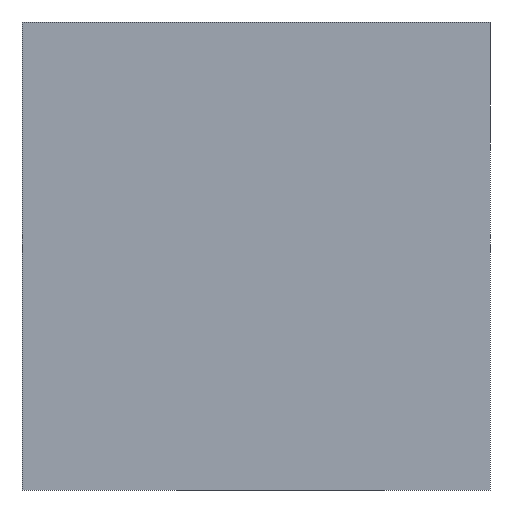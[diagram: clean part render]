
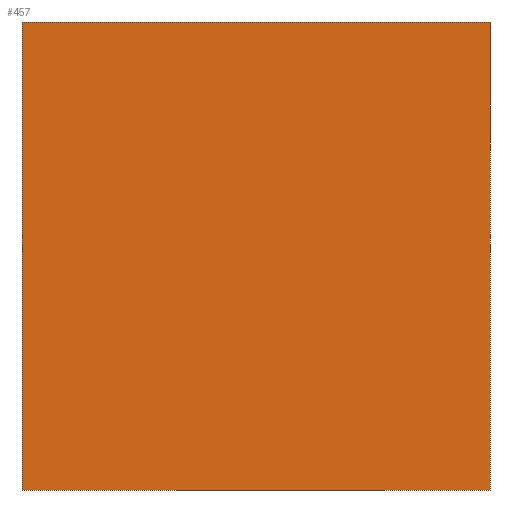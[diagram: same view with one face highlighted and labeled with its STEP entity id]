
A CAD part, front view. The second image highlights one B-rep face of the part: STEP entity #457.
In plain terms, the highlighted planar face has unit normal (0, -1, 0).
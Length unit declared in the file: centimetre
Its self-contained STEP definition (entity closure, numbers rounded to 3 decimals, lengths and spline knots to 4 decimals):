
#41 = EDGE_LOOP ( 'NONE', ( #566, #92, #138, #528 ) ) ;
#70 = VECTOR ( 'NONE', #461, 100. ) ;
#85 = LINE ( 'NONE', #244, #119 ) ;
#89 = DIRECTION ( 'NONE',  ( 0., 0., -1. ) ) ;
#92 = ORIENTED_EDGE ( 'NONE', *, *, #101, .F. ) ;
#101 = EDGE_CURVE ( 'NONE', #537, #214, #247, .T. ) ;
#108 = CARTESIAN_POINT ( 'NONE',  ( 0., 0., 1000. ) ) ;
#111 = VECTOR ( 'NONE', #449, 100. ) ;
#119 = VECTOR ( 'NONE', #160, 100. ) ;
#138 = ORIENTED_EDGE ( 'NONE', *, *, #169, .F. ) ;
#160 = DIRECTION ( 'NONE',  ( 1., 0., 0. ) ) ;
#169 = EDGE_CURVE ( 'NONE', #209, #537, #85, .T. ) ;
#180 = LINE ( 'NONE', #536, #111 ) ;
#187 = CARTESIAN_POINT ( 'NONE',  ( 1000., 0., 1000. ) ) ;
#190 = PLANE ( 'NONE',  #499 ) ;
#209 = VERTEX_POINT ( 'NONE', #346 ) ;
#214 = VERTEX_POINT ( 'NONE', #561 ) ;
#229 = CARTESIAN_POINT ( 'NONE',  ( 0., 0., 0. ) ) ;
#244 = CARTESIAN_POINT ( 'NONE',  ( 0., 0., 1000. ) ) ;
#246 = EDGE_CURVE ( 'NONE', #209, #491, #512, .T. ) ;
#247 = LINE ( 'NONE', #562, #70 ) ;
#335 = VECTOR ( 'NONE', #89, 100. ) ;
#346 = CARTESIAN_POINT ( 'NONE',  ( 0., 0., 1000. ) ) ;
#380 = EDGE_CURVE ( 'NONE', #491, #214, #180, .T. ) ;
#402 = DIRECTION ( 'NONE',  ( 0., 0., 1. ) ) ;
#449 = DIRECTION ( 'NONE',  ( 1., 0., 0. ) ) ;
#451 = DIRECTION ( 'NONE',  ( 0., 1., 0. ) ) ;
#457 = ADVANCED_FACE ( 'NONE', ( #495 ), #190, .F. ) ;
#461 = DIRECTION ( 'NONE',  ( 0., 0., -1. ) ) ;
#484 = CARTESIAN_POINT ( 'NONE',  ( 0., 0., 1000. ) ) ;
#491 = VERTEX_POINT ( 'NONE', #229 ) ;
#495 = FACE_OUTER_BOUND ( 'NONE', #41, .T. ) ;
#499 = AXIS2_PLACEMENT_3D ( 'NONE', #108, #451, #402 ) ;
#512 = LINE ( 'NONE', #484, #335 ) ;
#528 = ORIENTED_EDGE ( 'NONE', *, *, #246, .T. ) ;
#536 = CARTESIAN_POINT ( 'NONE',  ( 0., 0., 0. ) ) ;
#537 = VERTEX_POINT ( 'NONE', #187 ) ;
#561 = CARTESIAN_POINT ( 'NONE',  ( 1000., 0., 0. ) ) ;
#562 = CARTESIAN_POINT ( 'NONE',  ( 1000., 0., 1000. ) ) ;
#566 = ORIENTED_EDGE ( 'NONE', *, *, #380, .T. ) ;
